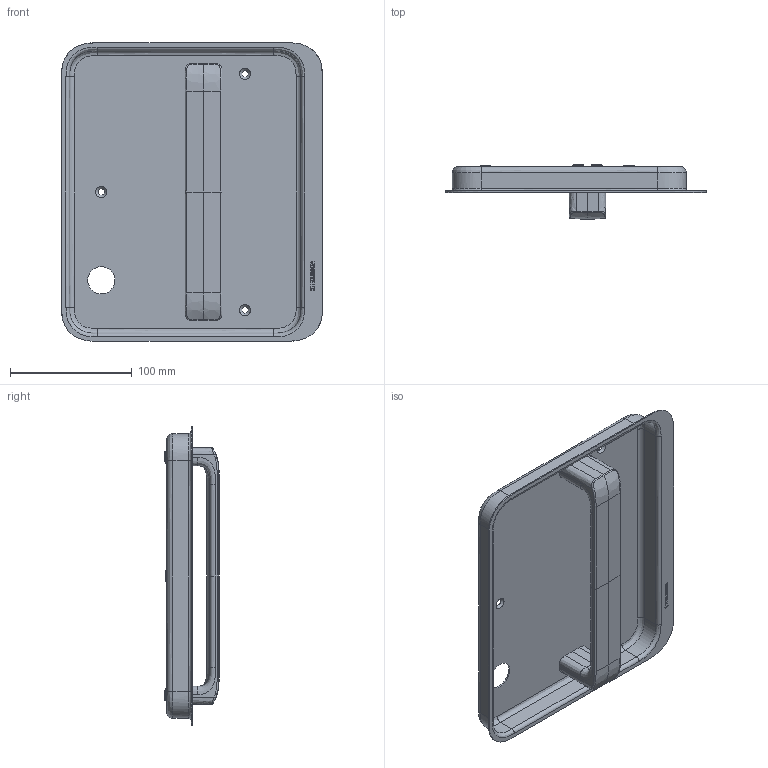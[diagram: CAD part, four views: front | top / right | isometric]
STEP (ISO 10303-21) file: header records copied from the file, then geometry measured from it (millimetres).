
FILE_DESCRIPTION(/* description */ (''),/* implementation_level */ '2;1');
FILE_NAME(/* name */ 'C:\ADSK_DMS_WS\Designs\Vorschläge\Loc Schalen\Heusser Muschel\Heusser-Muschel mit D6\Heusser-Muschel S9.20 mit D6\S9.20.D6.294R..stp',/* time_stamp */ '2025-04-14T13:59:12+02:00',/* author */ ('gm'),/* organization */ (''),/* preprocessor_version */ 'ST-DEVELOPER v17.2',/* originating_system */ 'Autodesk Inventor 2019',/* authorisation */ '');
FILE_SCHEMA (('AUTOMOTIVE_DESIGN { 1 0 10303 214 3 1 1 }'));
Length unit declared in the file: millimetre
Products named in the file (4): S9.20.D6.294R.; Schale S9.20.R.D6; D6; M5x10 zu D6
Assembly tree (6 placements, depth 2):
  S9.20.D6.294R.
    Schale S9.20.R.D6
    D6
    M5x10 zu D6  x4
Bounding box: 214 x 44.5 x 245 mm (x, y, z)
Volume: 147332.5 mm3; surface area: 154127.3 mm2
Topology: 6 solids, 6 shells, 394 faces, 1016 edges, 653 vertices
Faces by surface type: bspline 148, plane 127, cylinder 65, cone 50, torus 4
Full cylindrical faces by diameter (mm): 4.134 x4, 5 x4, 5.5 x4, 9 x4, 22.3 x1
Entity records: 20856 total; most frequent: CARTESIAN_POINT 13995, ORIENTED_EDGE 1608, DIRECTION 945, EDGE_CURVE 804, VERTEX_POINT 518, LINE 423, VECTOR 423, EDGE_LOOP 350
